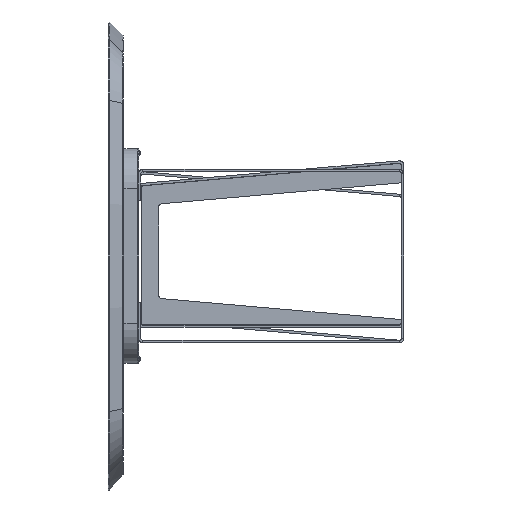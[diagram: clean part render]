
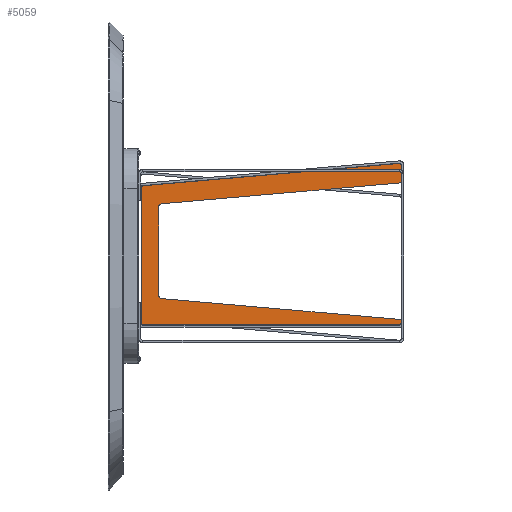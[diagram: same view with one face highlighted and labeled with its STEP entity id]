
A CAD part, left-side view. The second image highlights one B-rep face of the part: STEP entity #5059.
In plain terms, the highlighted planar face has unit normal (-1, 0, 0) as drawn and (0, 0, 1) by its records, which use the part's own axes.
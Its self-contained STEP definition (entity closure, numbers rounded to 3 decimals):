
#48 = ORIENTED_EDGE ( 'NONE', *, *, #16984, .T. ) ;
#271 = LINE ( 'NONE', #11648, #2243 ) ;
#316 = VECTOR ( 'NONE', #14623, 1000. ) ;
#489 = VERTEX_POINT ( 'NONE', #6877 ) ;
#568 = VERTEX_POINT ( 'NONE', #7645 ) ;
#617 = CARTESIAN_POINT ( 'NONE',  ( -101.213, 620.5, 15. ) ) ;
#960 = ORIENTED_EDGE ( 'NONE', *, *, #8879, .T. ) ;
#1043 = AXIS2_PLACEMENT_3D ( 'NONE', #3701, #1355, #8126 ) ;
#1212 = CIRCLE ( 'NONE', #9514, 8. ) ;
#1308 = CARTESIAN_POINT ( 'NONE',  ( 238.457, 6.5, 15. ) ) ;
#1355 = DIRECTION ( 'NONE',  ( 0., 0., -1. ) ) ;
#1438 = CIRCLE ( 'NONE', #10947, 5. ) ;
#1510 = LINE ( 'NONE', #9998, #316 ) ;
#1616 = DIRECTION ( 'NONE',  ( -0.087, -0.996, 0. ) ) ;
#1817 = VECTOR ( 'NONE', #5660, 1000. ) ;
#1826 = CARTESIAN_POINT ( 'NONE',  ( -176.5, 668.5, 15. ) ) ;
#1975 = DIRECTION ( 'NONE',  ( 0., 0., 1. ) ) ;
#2204 = CARTESIAN_POINT ( 'NONE',  ( 232.456, 11.5, 15. ) ) ;
#2243 = VECTOR ( 'NONE', #6076, 1000. ) ;
#2296 = VERTEX_POINT ( 'NONE', #17655 ) ;
#2359 = VERTEX_POINT ( 'NONE', #15426 ) ;
#2443 = VECTOR ( 'NONE', #3855, 1000. ) ;
#2655 = AXIS2_PLACEMENT_3D ( 'NONE', #15174, #1975, #7848 ) ;
#2893 = ORIENTED_EDGE ( 'NONE', *, *, #15615, .T. ) ;
#2959 = CIRCLE ( 'NONE', #2655, 5. ) ;
#3082 = VERTEX_POINT ( 'NONE', #13518 ) ;
#3424 = AXIS2_PLACEMENT_3D ( 'NONE', #2204, #9616, #6364 ) ;
#3698 = CARTESIAN_POINT ( 'NONE',  ( 174.976, 668.5, 15. ) ) ;
#3701 = CARTESIAN_POINT ( 'NONE',  ( 125.973, 620.5, 15. ) ) ;
#3852 = CARTESIAN_POINT ( 'NONE',  ( -171.5, 6.5, 15. ) ) ;
#3855 = DIRECTION ( 'NONE',  ( 0.087, -0.996, 0. ) ) ;
#3996 = EDGE_CURVE ( 'NONE', #3082, #489, #271, .T. ) ;
#4297 = EDGE_CURVE ( 'NONE', #16256, #8848, #11622, .T. ) ;
#4421 = AXIS2_PLACEMENT_3D ( 'NONE', #12775, #11897, #13342 ) ;
#4454 = EDGE_CURVE ( 'NONE', #2296, #2359, #14817, .T. ) ;
#4982 = DIRECTION ( 'NONE',  ( 0., 0., 1. ) ) ;
#5059 = ADVANCED_FACE ( 'NONE', ( #9787 ), #8347, .F. ) ;
#5261 = CIRCLE ( 'NONE', #3424, 5. ) ;
#5333 = DIRECTION ( 'NONE',  ( 1., 0., 0. ) ) ;
#5423 = ORIENTED_EDGE ( 'NONE', *, *, #13399, .T. ) ;
#5444 = ORIENTED_EDGE ( 'NONE', *, *, #5462, .T. ) ;
#5462 = EDGE_CURVE ( 'NONE', #18040, #17480, #17659, .T. ) ;
#5660 = DIRECTION ( 'NONE',  ( 1., 0., 0. ) ) ;
#6045 = EDGE_CURVE ( 'NONE', #7921, #14389, #17079, .T. ) ;
#6076 = DIRECTION ( 'NONE',  ( 1., 0., 0. ) ) ;
#6164 = VERTEX_POINT ( 'NONE', #10658 ) ;
#6269 = VECTOR ( 'NONE', #1616, 1000. ) ;
#6364 = DIRECTION ( 'NONE',  ( 1., 0., 0. ) ) ;
#6610 = ORIENTED_EDGE ( 'NONE', *, *, #16752, .T. ) ;
#6877 = CARTESIAN_POINT ( 'NONE',  ( 232.456, 6.5, 15. ) ) ;
#7238 = AXIS2_PLACEMENT_3D ( 'NONE', #18175, #4982, #12110 ) ;
#7537 = ORIENTED_EDGE ( 'NONE', *, *, #3996, .T. ) ;
#7645 = CARTESIAN_POINT ( 'NONE',  ( 237.437, 11.936, 15. ) ) ;
#7788 = ORIENTED_EDGE ( 'NONE', *, *, #4454, .F. ) ;
#7797 = ORIENTED_EDGE ( 'NONE', *, *, #4297, .T. ) ;
#7800 = CARTESIAN_POINT ( 'NONE',  ( 125.973, 628.5, 15. ) ) ;
#7848 = DIRECTION ( 'NONE',  ( 1., 0., 0. ) ) ;
#7921 = VERTEX_POINT ( 'NONE', #17384 ) ;
#8126 = DIRECTION ( 'NONE',  ( 1., 0., 0. ) ) ;
#8347 = PLANE ( 'NONE',  #4421 ) ;
#8533 = VECTOR ( 'NONE', #16261, 1000. ) ;
#8654 = DIRECTION ( 'NONE',  ( -1., 0., 0. ) ) ;
#8799 = EDGE_CURVE ( 'NONE', #8848, #9489, #2959, .T. ) ;
#8848 = VERTEX_POINT ( 'NONE', #14301 ) ;
#8879 = EDGE_CURVE ( 'NONE', #15211, #16256, #1438, .T. ) ;
#9216 = CARTESIAN_POINT ( 'NONE',  ( 0., 628.5, 15. ) ) ;
#9291 = DIRECTION ( 'NONE',  ( 1., 0., 0. ) ) ;
#9489 = VERTEX_POINT ( 'NONE', #1826 ) ;
#9514 = AXIS2_PLACEMENT_3D ( 'NONE', #617, #16615, #9291 ) ;
#9616 = DIRECTION ( 'NONE',  ( 0., 0., 1. ) ) ;
#9787 = FACE_OUTER_BOUND ( 'NONE', #14629, .T. ) ;
#9821 = CARTESIAN_POINT ( 'NONE',  ( 186.856, 16.392, 15. ) ) ;
#9825 = ORIENTED_EDGE ( 'NONE', *, *, #8799, .T. ) ;
#9969 = EDGE_CURVE ( 'NONE', #18040, #6164, #10383, .T. ) ;
#9998 = CARTESIAN_POINT ( 'NONE',  ( -176.5, 11., 15. ) ) ;
#10282 = CARTESIAN_POINT ( 'NONE',  ( 174.976, 673.5, 15. ) ) ;
#10383 = LINE ( 'NONE', #9216, #8533 ) ;
#10449 = CARTESIAN_POINT ( 'NONE',  ( 133.943, 621.197, 15. ) ) ;
#10658 = CARTESIAN_POINT ( 'NONE',  ( -101.213, 628.5, 15. ) ) ;
#10947 = AXIS2_PLACEMENT_3D ( 'NONE', #3698, #18426, #5333 ) ;
#11345 = LINE ( 'NONE', #9821, #2443 ) ;
#11531 = CARTESIAN_POINT ( 'NONE',  ( 179.514, 674., 15. ) ) ;
#11622 = LINE ( 'NONE', #17507, #14568 ) ;
#11648 = CARTESIAN_POINT ( 'NONE',  ( 238.457, 6.5, 15. ) ) ;
#11897 = DIRECTION ( 'NONE',  ( 0., 0., -1. ) ) ;
#12110 = DIRECTION ( 'NONE',  ( 1., 0., 0. ) ) ;
#12775 = CARTESIAN_POINT ( 'NONE',  ( 0., 0., 15. ) ) ;
#13056 = EDGE_CURVE ( 'NONE', #14389, #2359, #18846, .T. ) ;
#13094 = ORIENTED_EDGE ( 'NONE', *, *, #13056, .T. ) ;
#13173 = CARTESIAN_POINT ( 'NONE',  ( -162.284, 14.242, 15. ) ) ;
#13256 = ORIENTED_EDGE ( 'NONE', *, *, #9969, .F. ) ;
#13342 = DIRECTION ( 'NONE',  ( 1., 0., 0. ) ) ;
#13399 = EDGE_CURVE ( 'NONE', #2296, #6164, #1212, .T. ) ;
#13518 = CARTESIAN_POINT ( 'NONE',  ( 187.722, 6.5, 15. ) ) ;
#14178 = CARTESIAN_POINT ( 'NONE',  ( 179.957, 668.936, 15. ) ) ;
#14301 = CARTESIAN_POINT ( 'NONE',  ( -171.5, 673.5, 15. ) ) ;
#14389 = VERTEX_POINT ( 'NONE', #3852 ) ;
#14568 = VECTOR ( 'NONE', #8654, 1000. ) ;
#14623 = DIRECTION ( 'NONE',  ( 0., -1., 0. ) ) ;
#14629 = EDGE_LOOP ( 'NONE', ( #7537, #6610, #48, #960, #7797, #9825, #16042, #16653, #13094, #7788, #5423, #13256, #5444, #2893 ) ) ;
#14817 = LINE ( 'NONE', #13173, #6269 ) ;
#15174 = CARTESIAN_POINT ( 'NONE',  ( -171.5, 668.5, 15. ) ) ;
#15211 = VERTEX_POINT ( 'NONE', #14178 ) ;
#15426 = CARTESIAN_POINT ( 'NONE',  ( -162.962, 6.5, 15. ) ) ;
#15615 = EDGE_CURVE ( 'NONE', #17480, #3082, #11345, .T. ) ;
#16042 = ORIENTED_EDGE ( 'NONE', *, *, #16233, .T. ) ;
#16233 = EDGE_CURVE ( 'NONE', #9489, #7921, #1510, .T. ) ;
#16256 = VERTEX_POINT ( 'NONE', #10282 ) ;
#16261 = DIRECTION ( 'NONE',  ( -1., 0., 0. ) ) ;
#16615 = DIRECTION ( 'NONE',  ( 0., 0., -1. ) ) ;
#16653 = ORIENTED_EDGE ( 'NONE', *, *, #6045, .T. ) ;
#16752 = EDGE_CURVE ( 'NONE', #489, #568, #5261, .T. ) ;
#16984 = EDGE_CURVE ( 'NONE', #568, #15211, #18667, .T. ) ;
#17079 = CIRCLE ( 'NONE', #7238, 5. ) ;
#17272 = VECTOR ( 'NONE', #17419, 1000. ) ;
#17384 = CARTESIAN_POINT ( 'NONE',  ( -176.5, 11.5, 15. ) ) ;
#17419 = DIRECTION ( 'NONE',  ( -0.087, 0.996, 0. ) ) ;
#17480 = VERTEX_POINT ( 'NONE', #10449 ) ;
#17507 = CARTESIAN_POINT ( 'NONE',  ( -177., 673.5, 15. ) ) ;
#17655 = CARTESIAN_POINT ( 'NONE',  ( -109.183, 621.197, 15. ) ) ;
#17659 = CIRCLE ( 'NONE', #1043, 8. ) ;
#18040 = VERTEX_POINT ( 'NONE', #7800 ) ;
#18175 = CARTESIAN_POINT ( 'NONE',  ( -171.5, 11.5, 15. ) ) ;
#18426 = DIRECTION ( 'NONE',  ( 0., 0., 1. ) ) ;
#18667 = LINE ( 'NONE', #11531, #17272 ) ;
#18846 = LINE ( 'NONE', #1308, #1817 ) ;
